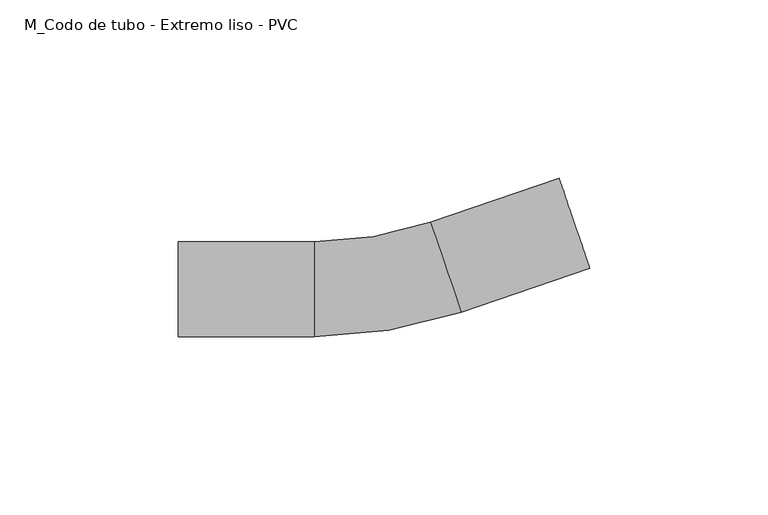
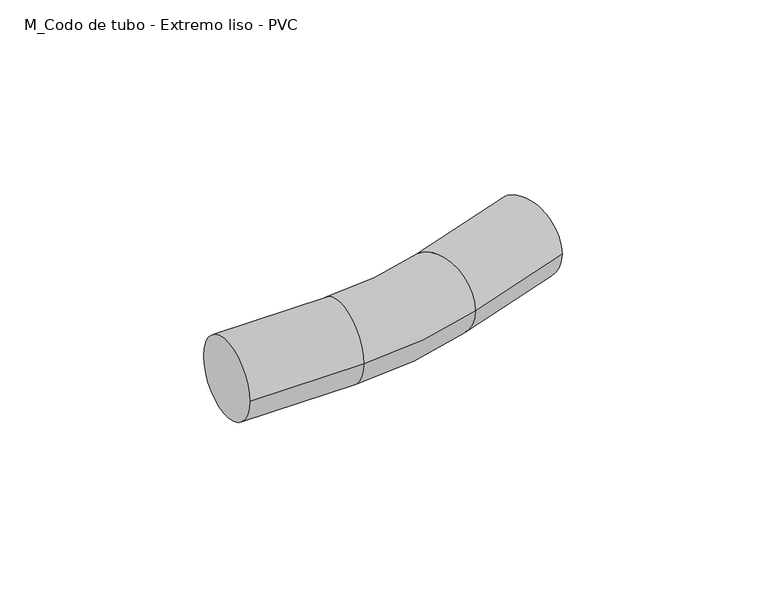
"""IFC4 building model written with IfcOpenShell, lengths in millimetres: cable carrier fitting geometry, M_Codo de tubo - Extremo liso - PVC : CODO ILUMINACION."""

from ifc_helpers import new_model, si_unit, point, frame, origin, place, context, project, spatial, circle_curve, ellipse_curve, trimmed, source, transform, mapped, element, save
from ifc_brep_helpers import plane_surface, cylinder_surface, revolved_surface, advanced_brep


def m_codo_de_tubo_extremo_liso_pvc_62d78873(model_context):
    return source(origin(), model_context, "Body", "AdvancedBrep", [
        advanced_brep(
        [(-57.1010612, -13.335, 0.0), (-57.1010612, 13.335, 0.0), (-19.0010612, -13.335, 0.0), (-19.0010612, 13.335, 0.0), (13.6647526, 18.7653161, 0.0), (22.2934582, -6.4702608, 0.0), (58.3442823, 5.8564614, 0.0), (49.7155768, 31.0920383, 0.0)],
        [
            (0, 1, circle_curve(frame((-57.1010612, 0.0, 0.0), z_axis=(-1.0, 0.0, 0.0), x_axis=(0.0, 1.0, 0.0)), 13.335)),
            (1, 0, circle_curve(frame((-57.1010612, 0.0, 0.0), z_axis=(-1.0, 0.0, 0.0), x_axis=(0.0, 1.0, 0.0)), 13.335)),
            (0, 2),
            (2, 3, circle_curve(frame((-19.0010612, 0.0, 0.0), z_axis=(-1.0, 0.0, 0.0), x_axis=(0.0, 1.0, 0.0)), 13.335)),
            (3, 1),
            (3, 2, circle_curve(frame((-19.0010612, 0.0, 0.0), z_axis=(-1.0, 0.0, 0.0), x_axis=(0.0, 1.0, 0.0)), 13.335)),
            (4, 3, circle_curve(frame((-19.0010612, 114.3, 0.0), z_axis=(0.0, 0.0, -1.0), x_axis=(0.0, -1.0, 0.0)), 100.965)),
            (2, 5, circle_curve(frame((-19.0010612, 114.3, 0.0), z_axis=(0.0, 0.0, 1.0), x_axis=(0.0, -1.0, 0.0)), 127.635)),
            (5, 4, circle_curve(frame((17.9791054, 6.1475277, 0.0), z_axis=(-0.9462158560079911, -0.3235360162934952, 0.0), x_axis=(-0.3235360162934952, 0.9462158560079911, 0.0)), 13.335)),
            (4, 5, circle_curve(frame((17.9791054, 6.1475277, 0.0), z_axis=(-0.9462158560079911, -0.3235360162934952, 0.0), x_axis=(-0.3235360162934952, 0.9462158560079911, 0.0)), 13.335)),
            (6, 7, circle_curve(frame((54.0299295, 18.4742499, 0.0), z_axis=(0.9462158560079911, 0.3235360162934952, 0.0), x_axis=(-0.3235360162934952, 0.9462158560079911, 0.0)), 13.335)),
            (7, 6, circle_curve(frame((54.0299295, 18.4742499, 0.0), z_axis=(0.9462158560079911, 0.3235360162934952, 0.0), x_axis=(-0.3235360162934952, 0.9462158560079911, 0.0)), 13.335)),
            (5, 6),
            (7, 4),
        ],
        [
            plane_surface(frame((-57.1010612, 0.0, 0.0), z_axis=(-1.0, 0.0, 0.0), x_axis=(0.0, 0.0, 1.0))),
            cylinder_surface(frame((-57.1010612, 0.0, 0.0), z_axis=(-1.0, 0.0, 0.0), x_axis=(0.0, 1.0, 0.0)), 13.335),
            revolved_surface(trimmed(ellipse_curve(frame((-19.0010612, 0.0, 0.0), z_axis=(-1.0, 0.0, 0.0), x_axis=(0.0, 1.0, 0.0)), 13.335, 13.335), [point((-19.0010612, -13.335, 0.0))], [point((-19.0010612, 13.335, 0.0))], True, "CARTESIAN"), (-19.0010612, 114.3, 0.0), (0.0, 0.0, 1.0)),
            revolved_surface(trimmed(ellipse_curve(frame((-19.0010612, 0.0, 0.0), z_axis=(-1.0, 0.0, 0.0), x_axis=(0.0, 1.0, 0.0)), 13.335, 13.335), [point((-19.0010612, 13.335, 0.0))], [point((-19.0010612, -13.335, 0.0))], True, "CARTESIAN"), (-19.0010612, 114.3, 0.0), (0.0, 0.0, 1.0)),
            plane_surface(frame((54.0299295, 18.4742499, 0.0), z_axis=(0.9462158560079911, 0.32353601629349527, 0.0), x_axis=(0.0, 0.0, 1.0))),
            cylinder_surface(frame((17.9791054, 6.1475277, 0.0), z_axis=(-0.9462158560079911, -0.3235360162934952, 0.0), x_axis=(-0.3235360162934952, 0.9462158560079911, 0.0)), 13.335),
        ],
        [
            (0, [[1, 2]]),
            (1, [[-1, 3, 4, 5]]),
            (1, [[-2, -5, 6, -3]]),
            (2, [[7, -4, 8, 9]]),
            (3, [[-8, -6, -7, 10]]),
            (4, [[11, 12]]),
            (5, [[-9, 13, -12, 14]]),
            (5, [[-10, -14, -11, -13]]),
        ],
    ),
    ])


if __name__ == "__main__":
    model = new_model("IFC4")
    model_context = context("Model", 3, world=origin())
    ifc_project = project(units=[si_unit("LENGTHUNIT", "METRE", prefix="MILLI")], contexts=[model_context])
    site = spatial("IfcSite", under=ifc_project)
    building = spatial("IfcBuilding", under=site)
    placement = place(None, origin())
    m_codo_de_tubo_extremo_liso_pvc_shape = m_codo_de_tubo_extremo_liso_pvc_62d78873(model_context)
    element("IfcCableCarrierFitting", 1, ObjectType="M_Codo de tubo - Extremo liso - PVC : CODO ILUMINACION", at=placement, inside=building, context=model_context, shape_type="MappedRepresentation", body=[
        mapped(m_codo_de_tubo_extremo_liso_pvc_shape, transform((0.0, 0.0, 0.0), x_axis=(1.0, 0.0, 0.0), y_axis=(0.0, 1.0, 0.0), z_axis=(0.0, 0.0, 1.0))),
    ])
    save(model, "model.ifc")
